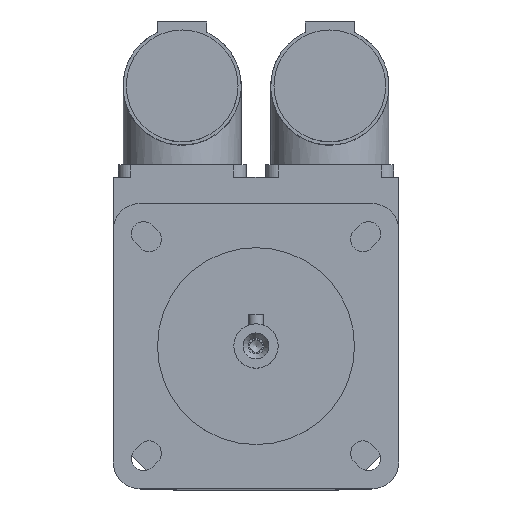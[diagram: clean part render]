
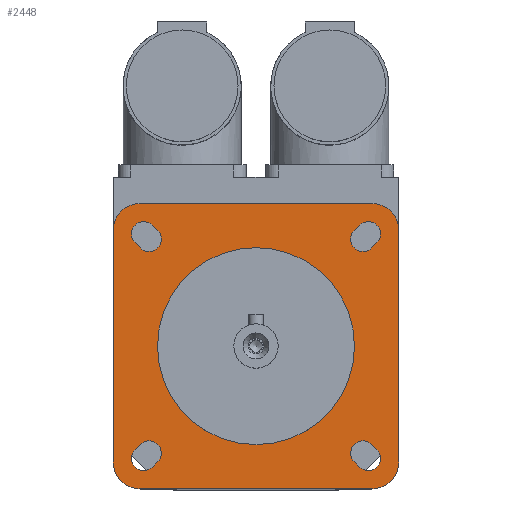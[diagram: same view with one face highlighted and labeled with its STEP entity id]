
A CAD part, top view. The second image highlights one B-rep face of the part: STEP entity #2448.
In plain terms, the highlighted planar face has unit normal (0, 0, 1).
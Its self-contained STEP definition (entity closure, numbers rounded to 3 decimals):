
#94=LINE('',#3819,#315);
#102=LINE('',#3843,#323);
#106=LINE('',#3853,#327);
#110=LINE('',#3863,#331);
#126=LINE('',#3914,#347);
#128=LINE('',#3920,#349);
#130=LINE('',#3926,#351);
#132=LINE('',#3932,#353);
#141=LINE('',#3960,#362);
#142=LINE('',#3961,#363);
#143=LINE('',#3962,#364);
#144=LINE('',#3963,#365);
#315=VECTOR('',#3029,1.5);
#323=VECTOR('',#3051,1.5);
#327=VECTOR('',#3061,1.5);
#331=VECTOR('',#3071,1.5);
#347=VECTOR('',#3117,1.5);
#349=VECTOR('',#3125,1.5);
#351=VECTOR('',#3133,1.5);
#353=VECTOR('',#3141,1.5);
#362=VECTOR('',#3172,47.);
#363=VECTOR('',#3173,47.);
#364=VECTOR('',#3174,47.);
#365=VECTOR('',#3175,47.);
#512=PLANE('',#2661);
#623=FACE_BOUND('',#851,.T.);
#624=FACE_BOUND('',#852,.T.);
#625=FACE_BOUND('',#853,.T.);
#626=FACE_BOUND('',#854,.T.);
#627=FACE_BOUND('',#855,.T.);
#699=FACE_OUTER_BOUND('',#850,.T.);
#850=EDGE_LOOP('',(#1958,#1959,#1960,#1961,#1962,#1963,#1964,#1965));
#851=EDGE_LOOP('',(#1966));
#852=EDGE_LOOP('',(#1967,#1968,#1969,#1970));
#853=EDGE_LOOP('',(#1971,#1972,#1973,#1974));
#854=EDGE_LOOP('',(#1975,#1976,#1977,#1978));
#855=EDGE_LOOP('',(#1979,#1980,#1981,#1982));
#950=CIRCLE('',#2551,20.);
#987=CIRCLE('',#2615,2.5);
#991=CIRCLE('',#2622,2.5);
#992=CIRCLE('',#2625,2.5);
#993=CIRCLE('',#2628,2.5);
#1003=CIRCLE('',#2643,2.5);
#1004=CIRCLE('',#2646,2.5);
#1005=CIRCLE('',#2649,2.5);
#1006=CIRCLE('',#2652,2.5);
#1007=CIRCLE('',#2654,5.5);
#1008=CIRCLE('',#2656,5.5);
#1009=CIRCLE('',#2658,5.5);
#1010=CIRCLE('',#2660,5.5);
#1078=VERTEX_POINT('',#3640);
#1143=VERTEX_POINT('',#3816);
#1144=VERTEX_POINT('',#3818);
#1145=VERTEX_POINT('',#3822);
#1152=VERTEX_POINT('',#3840);
#1153=VERTEX_POINT('',#3842);
#1154=VERTEX_POINT('',#3846);
#1155=VERTEX_POINT('',#3850);
#1156=VERTEX_POINT('',#3852);
#1157=VERTEX_POINT('',#3856);
#1158=VERTEX_POINT('',#3860);
#1159=VERTEX_POINT('',#3862);
#1160=VERTEX_POINT('',#3866);
#1179=VERTEX_POINT('',#3912);
#1180=VERTEX_POINT('',#3918);
#1181=VERTEX_POINT('',#3924);
#1182=VERTEX_POINT('',#3930);
#1183=VERTEX_POINT('',#3936);
#1184=VERTEX_POINT('',#3938);
#1185=VERTEX_POINT('',#3942);
#1186=VERTEX_POINT('',#3944);
#1187=VERTEX_POINT('',#3948);
#1188=VERTEX_POINT('',#3950);
#1189=VERTEX_POINT('',#3954);
#1190=VERTEX_POINT('',#3956);
#1324=EDGE_CURVE('',#1078,#1078,#950,.T.);
#1410=EDGE_CURVE('',#1144,#1143,#94,.T.);
#1413=EDGE_CURVE('',#1143,#1145,#987,.T.);
#1422=EDGE_CURVE('',#1153,#1152,#102,.T.);
#1425=EDGE_CURVE('',#1152,#1154,#991,.T.);
#1427=EDGE_CURVE('',#1156,#1155,#106,.T.);
#1430=EDGE_CURVE('',#1155,#1157,#992,.T.);
#1432=EDGE_CURVE('',#1159,#1158,#110,.T.);
#1435=EDGE_CURVE('',#1158,#1160,#993,.T.);
#1458=EDGE_CURVE('',#1157,#1179,#126,.T.);
#1459=EDGE_CURVE('',#1179,#1156,#1003,.T.);
#1461=EDGE_CURVE('',#1154,#1180,#128,.T.);
#1462=EDGE_CURVE('',#1180,#1153,#1004,.T.);
#1464=EDGE_CURVE('',#1160,#1181,#130,.T.);
#1465=EDGE_CURVE('',#1181,#1159,#1005,.T.);
#1467=EDGE_CURVE('',#1145,#1182,#132,.T.);
#1468=EDGE_CURVE('',#1182,#1144,#1006,.T.);
#1470=EDGE_CURVE('',#1184,#1183,#1007,.T.);
#1473=EDGE_CURVE('',#1186,#1185,#1008,.T.);
#1476=EDGE_CURVE('',#1188,#1187,#1009,.T.);
#1479=EDGE_CURVE('',#1190,#1189,#1010,.T.);
#1481=EDGE_CURVE('',#1183,#1190,#141,.T.);
#1482=EDGE_CURVE('',#1189,#1188,#142,.T.);
#1483=EDGE_CURVE('',#1187,#1186,#143,.T.);
#1484=EDGE_CURVE('',#1185,#1184,#144,.T.);
#1958=ORIENTED_EDGE('',*,*,#1481,.T.);
#1959=ORIENTED_EDGE('',*,*,#1479,.T.);
#1960=ORIENTED_EDGE('',*,*,#1482,.T.);
#1961=ORIENTED_EDGE('',*,*,#1476,.T.);
#1962=ORIENTED_EDGE('',*,*,#1483,.T.);
#1963=ORIENTED_EDGE('',*,*,#1473,.T.);
#1964=ORIENTED_EDGE('',*,*,#1484,.T.);
#1965=ORIENTED_EDGE('',*,*,#1470,.T.);
#1966=ORIENTED_EDGE('',*,*,#1324,.T.);
#1967=ORIENTED_EDGE('',*,*,#1458,.T.);
#1968=ORIENTED_EDGE('',*,*,#1459,.T.);
#1969=ORIENTED_EDGE('',*,*,#1427,.T.);
#1970=ORIENTED_EDGE('',*,*,#1430,.T.);
#1971=ORIENTED_EDGE('',*,*,#1461,.T.);
#1972=ORIENTED_EDGE('',*,*,#1462,.T.);
#1973=ORIENTED_EDGE('',*,*,#1422,.T.);
#1974=ORIENTED_EDGE('',*,*,#1425,.T.);
#1975=ORIENTED_EDGE('',*,*,#1464,.T.);
#1976=ORIENTED_EDGE('',*,*,#1465,.T.);
#1977=ORIENTED_EDGE('',*,*,#1432,.T.);
#1978=ORIENTED_EDGE('',*,*,#1435,.T.);
#1979=ORIENTED_EDGE('',*,*,#1467,.T.);
#1980=ORIENTED_EDGE('',*,*,#1468,.T.);
#1981=ORIENTED_EDGE('',*,*,#1410,.T.);
#1982=ORIENTED_EDGE('',*,*,#1413,.T.);
#2448=ADVANCED_FACE('',(#699,#623,#624,#625,#626,#627),#512,.T.);
#2551=AXIS2_PLACEMENT_3D('',#3641,#2854,#2855);
#2615=AXIS2_PLACEMENT_3D('',#3824,#3034,#3035);
#2622=AXIS2_PLACEMENT_3D('',#3848,#3056,#3057);
#2625=AXIS2_PLACEMENT_3D('',#3858,#3066,#3067);
#2628=AXIS2_PLACEMENT_3D('',#3868,#3076,#3077);
#2643=AXIS2_PLACEMENT_3D('',#3916,#3120,#3121);
#2646=AXIS2_PLACEMENT_3D('',#3922,#3128,#3129);
#2649=AXIS2_PLACEMENT_3D('',#3928,#3136,#3137);
#2652=AXIS2_PLACEMENT_3D('',#3934,#3144,#3145);
#2654=AXIS2_PLACEMENT_3D('',#3939,#3149,#3150);
#2656=AXIS2_PLACEMENT_3D('',#3945,#3155,#3156);
#2658=AXIS2_PLACEMENT_3D('',#3951,#3161,#3162);
#2660=AXIS2_PLACEMENT_3D('',#3957,#3167,#3168);
#2661=AXIS2_PLACEMENT_3D('',#3959,#3170,#3171);
#2854=DIRECTION('center_axis',(0.,0.,-1.));
#2855=DIRECTION('ref_axis',(-1.,0.,0.));
#3029=DIRECTION('',(-0.707,-0.707,0.));
#3034=DIRECTION('center_axis',(0.,0.,-1.));
#3035=DIRECTION('ref_axis',(0.707,-0.707,0.));
#3051=DIRECTION('',(-0.707,0.707,0.));
#3056=DIRECTION('center_axis',(0.,0.,-1.));
#3057=DIRECTION('ref_axis',(-0.707,-0.707,0.));
#3061=DIRECTION('',(-0.707,-0.707,0.));
#3066=DIRECTION('center_axis',(0.,0.,-1.));
#3067=DIRECTION('ref_axis',(0.707,-0.707,0.));
#3071=DIRECTION('',(-0.707,0.707,0.));
#3076=DIRECTION('center_axis',(0.,0.,-1.));
#3077=DIRECTION('ref_axis',(-0.707,-0.707,0.));
#3117=DIRECTION('',(0.707,0.707,0.));
#3120=DIRECTION('center_axis',(0.,0.,-1.));
#3121=DIRECTION('ref_axis',(-0.707,0.707,0.));
#3125=DIRECTION('',(0.707,-0.707,0.));
#3128=DIRECTION('center_axis',(0.,0.,-1.));
#3129=DIRECTION('ref_axis',(0.707,0.707,0.));
#3133=DIRECTION('',(0.707,-0.707,0.));
#3136=DIRECTION('center_axis',(0.,0.,-1.));
#3137=DIRECTION('ref_axis',(0.707,0.707,0.));
#3141=DIRECTION('',(0.707,0.707,0.));
#3144=DIRECTION('center_axis',(0.,0.,-1.));
#3145=DIRECTION('ref_axis',(-0.707,0.707,0.));
#3149=DIRECTION('center_axis',(0.,0.,1.));
#3150=DIRECTION('ref_axis',(1.,0.,0.));
#3155=DIRECTION('center_axis',(0.,0.,1.));
#3156=DIRECTION('ref_axis',(0.,-1.,0.));
#3161=DIRECTION('center_axis',(0.,0.,1.));
#3162=DIRECTION('ref_axis',(-1.,0.,0.));
#3167=DIRECTION('center_axis',(0.,0.,1.));
#3168=DIRECTION('ref_axis',(0.,1.,0.));
#3170=DIRECTION('center_axis',(0.,0.,1.));
#3171=DIRECTION('ref_axis',(1.,0.,0.));
#3172=DIRECTION('',(-1.,0.,0.));
#3173=DIRECTION('',(0.,-1.,0.));
#3174=DIRECTION('',(1.,0.,0.));
#3175=DIRECTION('',(0.,1.,0.));
#3640=CARTESIAN_POINT('',(20.,0.,110.5));
#3641=CARTESIAN_POINT('Origin',(0.,0.,110.5));
#3816=CARTESIAN_POINT('',(-21.036,-24.572,110.5));
#3818=CARTESIAN_POINT('',(-19.976,-23.511,110.5));
#3819=CARTESIAN_POINT('',(-9.634,-13.17,110.5));
#3822=CARTESIAN_POINT('',(-24.572,-21.036,110.5));
#3824=CARTESIAN_POINT('Origin',(-22.804,-22.804,110.5));
#3840=CARTESIAN_POINT('',(-24.572,21.036,110.5));
#3842=CARTESIAN_POINT('',(-23.511,19.976,110.5));
#3843=CARTESIAN_POINT('',(-13.17,9.634,110.5));
#3846=CARTESIAN_POINT('',(-21.036,24.572,110.5));
#3848=CARTESIAN_POINT('Origin',(-22.804,22.804,110.5));
#3850=CARTESIAN_POINT('',(23.511,19.976,110.5));
#3852=CARTESIAN_POINT('',(24.572,21.036,110.5));
#3853=CARTESIAN_POINT('',(12.64,9.104,110.5));
#3856=CARTESIAN_POINT('',(19.976,23.511,110.5));
#3858=CARTESIAN_POINT('Origin',(21.744,21.744,110.5));
#3860=CARTESIAN_POINT('',(19.976,-23.511,110.5));
#3862=CARTESIAN_POINT('',(21.036,-24.572,110.5));
#3863=CARTESIAN_POINT('',(9.104,-12.64,110.5));
#3866=CARTESIAN_POINT('',(23.511,-19.976,110.5));
#3868=CARTESIAN_POINT('Origin',(21.744,-21.744,110.5));
#3912=CARTESIAN_POINT('',(21.036,24.572,110.5));
#3914=CARTESIAN_POINT('',(9.634,13.17,110.5));
#3916=CARTESIAN_POINT('Origin',(22.804,22.804,110.5));
#3918=CARTESIAN_POINT('',(-19.976,23.511,110.5));
#3920=CARTESIAN_POINT('',(-9.104,12.64,110.5));
#3922=CARTESIAN_POINT('Origin',(-21.744,21.744,110.5));
#3924=CARTESIAN_POINT('',(24.572,-21.036,110.5));
#3926=CARTESIAN_POINT('',(13.17,-9.634,110.5));
#3928=CARTESIAN_POINT('Origin',(22.804,-22.804,110.5));
#3930=CARTESIAN_POINT('',(-23.511,-19.976,110.5));
#3932=CARTESIAN_POINT('',(-12.64,-9.104,110.5));
#3934=CARTESIAN_POINT('Origin',(-21.744,-21.744,110.5));
#3936=CARTESIAN_POINT('',(23.5,29.,110.5));
#3938=CARTESIAN_POINT('',(29.,23.5,110.5));
#3939=CARTESIAN_POINT('Origin',(23.5,23.5,110.5));
#3942=CARTESIAN_POINT('',(29.,-23.5,110.5));
#3944=CARTESIAN_POINT('',(23.5,-29.,110.5));
#3945=CARTESIAN_POINT('Origin',(23.5,-23.5,110.5));
#3948=CARTESIAN_POINT('',(-23.5,-29.,110.5));
#3950=CARTESIAN_POINT('',(-29.,-23.5,110.5));
#3951=CARTESIAN_POINT('Origin',(-23.5,-23.5,110.5));
#3954=CARTESIAN_POINT('',(-29.,23.5,110.5));
#3956=CARTESIAN_POINT('',(-23.5,29.,110.5));
#3957=CARTESIAN_POINT('Origin',(-23.5,23.5,110.5));
#3959=CARTESIAN_POINT('Origin',(0.,0.,
110.5));
#3960=CARTESIAN_POINT('',(23.5,29.,110.5));
#3961=CARTESIAN_POINT('',(-29.,23.5,110.5));
#3962=CARTESIAN_POINT('',(-23.5,-29.,110.5));
#3963=CARTESIAN_POINT('',(29.,-23.5,110.5));
